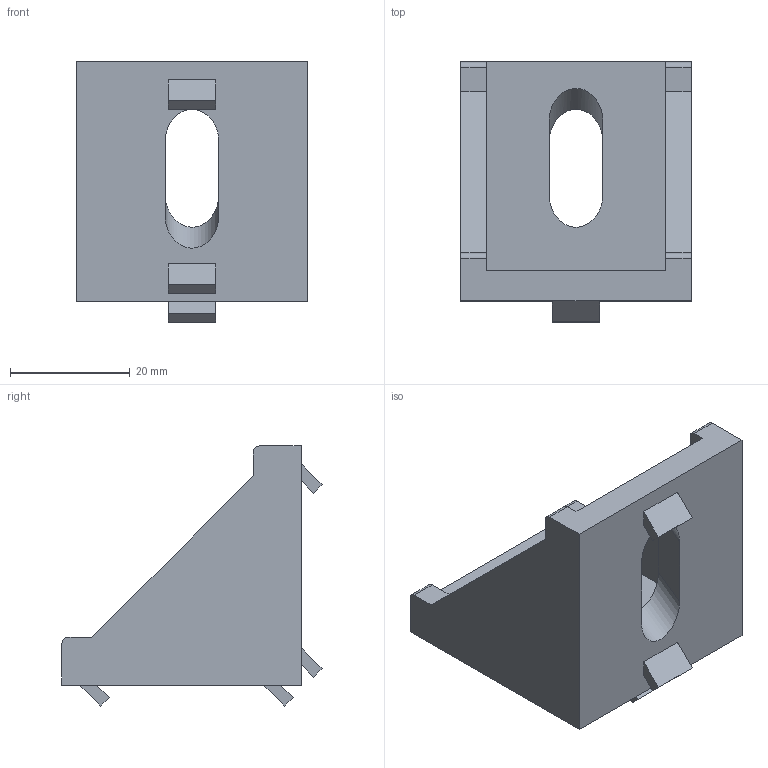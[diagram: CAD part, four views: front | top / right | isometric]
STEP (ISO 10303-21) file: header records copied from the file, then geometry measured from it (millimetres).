
FILE_DESCRIPTION (( 'STEP AP203' ), '1' );
FILE_NAME ('LIMA-GE40X40-8.STEP', '2018-03-15T12:45:04', ( '' ), ( '' ), 'SwSTEP 2.0', 'SolidWorks 2013', '' );
FILE_SCHEMA (( 'CONFIG_CONTROL_DESIGN' ));
Length unit declared in the file: millimetre
Products named in the file (1): LIMA-GE40X40-8
Bounding box: 38.5 x 43.5 x 43.5 mm (x, y, z)
Volume: 17618 mm3; surface area: 9157.2 mm2
Topology: 1 solids, 1 shells, 50 faces, 132 edges, 88 vertices
Faces by surface type: plane 40, cylinder 10
Entity records: 1609 total; most frequent: CARTESIAN_POINT 307, ORIENTED_EDGE 264, DIRECTION 230, EDGE_CURVE 132, VECTOR 112, LINE 112, VERTEX_POINT 88, AXIS2_PLACEMENT_3D 59
